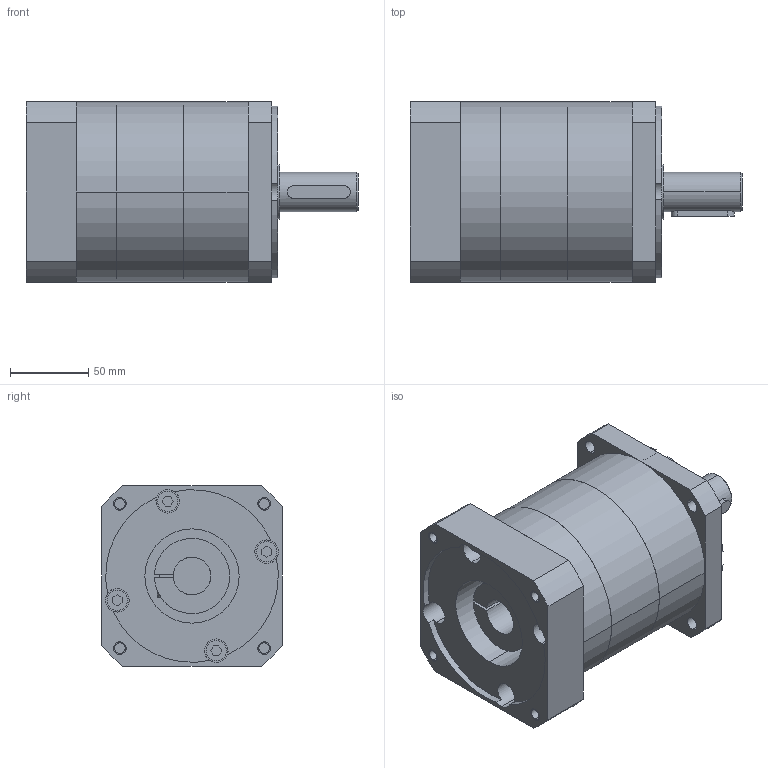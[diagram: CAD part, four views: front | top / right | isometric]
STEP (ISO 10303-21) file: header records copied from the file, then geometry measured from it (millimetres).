
FILE_DESCRIPTION((''),'2;1');
FILE_NAME('MB_PLE_MASTER','2019-08-02T',('agw'),(''),'CREO PARAMETRIC BY PTC INC, 2015290','CREO PARAMETRIC BY PTC INC, 2015290','');
FILE_SCHEMA(('AUTOMOTIVE_DESIGN { 1 0 10303 214 1 1 1 1 }'));
Length unit declared in the file: millimetre
Products named in the file (1): MB_PLE_MASTER
Bounding box: 211.5 x 115 x 115 mm (x, y, z)
Volume: 1643475 mm3; surface area: 143870.1 mm2
Topology: 1 solids, 11 shells, 315 faces, 742 edges, 487 vertices
Faces by surface type: plane 176, cylinder 127, cone 6, torus 6
Entity records: 9731 total; most frequent: DIRECTION 1664, CARTESIAN_POINT 1607, ORIENTED_EDGE 1460, EDGE_CURVE 740, AXIS2_PLACEMENT_3D 612, VERTEX_POINT 487, VECTOR 440, LINE 440
